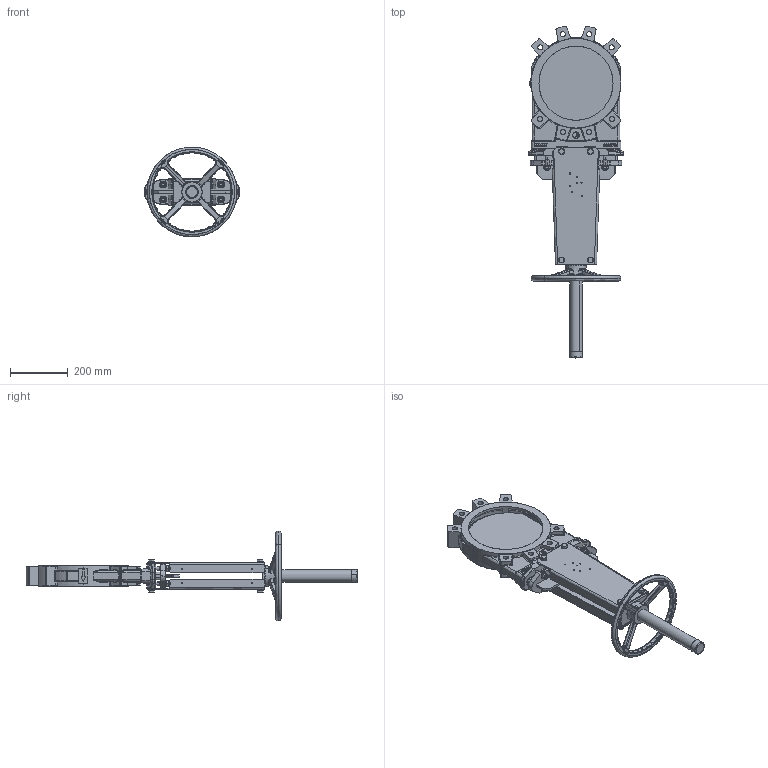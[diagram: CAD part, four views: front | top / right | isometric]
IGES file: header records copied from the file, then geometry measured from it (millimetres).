
Start section: SolidWorks IGES file using analytic representation for surfaces
Global section: file name: H:\BE BIBLIOTHEQUE 3D\BE SECTION 02 - VANNE GUILLOTINE\VG - Vanne Guillotine Standard\CAO\VG4400-00\DN250\VG4400-00NI0250.IGS; native system: SolidWorks 2020; preprocessor: SolidWorks 2020; author: a.aimard; date: 240610.092311; units: millimetre
Bounding box: 326 x 1147.15 x 310 mm (x, y, z)
Surface area: 1182696.2 mm2 (no closed solid volume)
Topology: 0 solids, 0 shells, 1594 faces, 28218 edges, 28184 vertices
Faces by surface type: bspline 987, revolution 607
